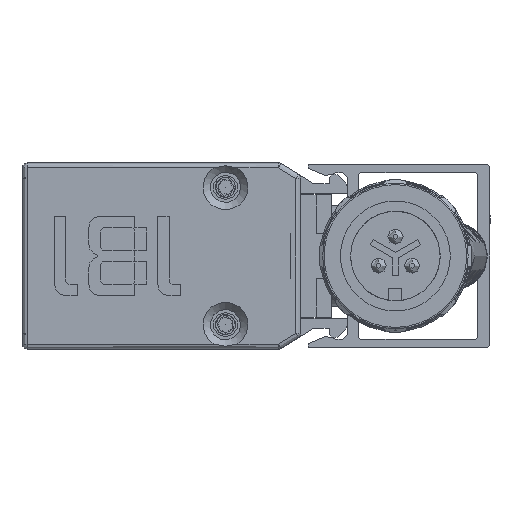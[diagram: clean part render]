
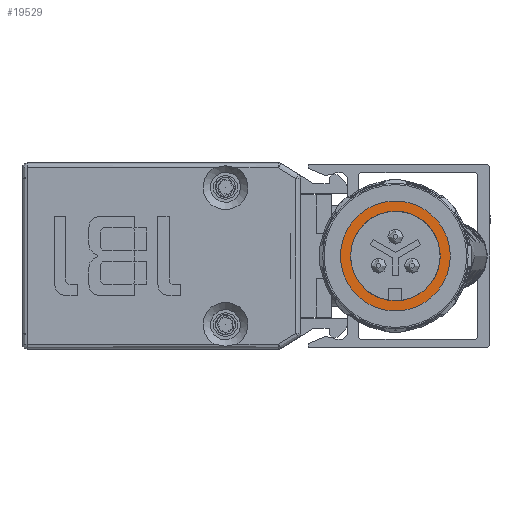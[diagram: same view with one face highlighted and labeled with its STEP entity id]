
A CAD part, left-side view. The second image highlights one B-rep face of the part: STEP entity #19529.
In plain terms, the highlighted planar face has unit normal (-1, 0, 0).
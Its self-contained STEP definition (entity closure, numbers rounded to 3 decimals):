
#11 = FACE_OUTER_BOUND ( 'NONE', #2804, .T. ) ;
#1995 = DIRECTION ( 'NONE',  ( 1., 0., 0. ) ) ;
#2804 = EDGE_LOOP ( 'NONE', ( #18748 ) ) ;
#5244 = ORIENTED_EDGE ( 'NONE', *, *, #12208, .F. ) ;
#6298 = DIRECTION ( 'NONE',  ( -1., 0., 0. ) ) ;
#6461 = CIRCLE ( 'NONE', #47592, 5.4 ) ;
#7272 = AXIS2_PLACEMENT_3D ( 'NONE', #33591, #29200, #41560 ) ;
#7733 = DIRECTION ( 'NONE',  ( 0., 0., 1. ) ) ;
#7782 = CARTESIAN_POINT ( 'NONE',  ( -6.5, -5.4, 0. ) ) ;
#12208 = EDGE_CURVE ( 'NONE', #26714, #30644, #50293, .T. ) ;
#13620 = VERTEX_POINT ( 'NONE', #7782 ) ;
#17013 = FACE_BOUND ( 'NONE', #54354, .T. ) ;
#18748 = ORIENTED_EDGE ( 'NONE', *, *, #41758, .F. ) ;
#19529 = ADVANCED_FACE ( 'NONE', ( #17013, #11 ), #26345, .F. ) ;
#19816 = DIRECTION ( 'NONE',  ( 0., -1., 0. ) ) ;
#26345 = PLANE ( 'NONE',  #54806 ) ;
#26714 = VERTEX_POINT ( 'NONE', #31541 ) ;
#29200 = DIRECTION ( 'NONE',  ( -1., 0., 0. ) ) ;
#30644 = VERTEX_POINT ( 'NONE', #40416 ) ;
#30735 = DIRECTION ( 'NONE',  ( 1., 0., 0. ) ) ;
#31541 = CARTESIAN_POINT ( 'NONE',  ( -6.5, 0., -4.4 ) ) ;
#33591 = CARTESIAN_POINT ( 'NONE',  ( -6.5, 0., 0. ) ) ;
#36222 = EDGE_CURVE ( 'NONE', #30644, #26714, #55728, .T. ) ;
#39216 = DIRECTION ( 'NONE',  ( 0., 1., 0. ) ) ;
#40416 = CARTESIAN_POINT ( 'NONE',  ( -6.5, 0., 4.4 ) ) ;
#41560 = DIRECTION ( 'NONE',  ( 0., 0., -1. ) ) ;
#41758 = EDGE_CURVE ( 'NONE', #13620, #13620, #6461, .T. ) ;
#42656 = ORIENTED_EDGE ( 'NONE', *, *, #36222, .F. ) ;
#44492 = CARTESIAN_POINT ( 'NONE',  ( -6.5, 0., 0. ) ) ;
#47285 = AXIS2_PLACEMENT_3D ( 'NONE', #55243, #6298, #7733 ) ;
#47336 = CARTESIAN_POINT ( 'NONE',  ( -6.5, 0., 0. ) ) ;
#47592 = AXIS2_PLACEMENT_3D ( 'NONE', #47336, #1995, #19816 ) ;
#50293 = CIRCLE ( 'NONE', #7272, 4.4 ) ;
#54354 = EDGE_LOOP ( 'NONE', ( #5244, #42656 ) ) ;
#54806 = AXIS2_PLACEMENT_3D ( 'NONE', #44492, #30735, #39216 ) ;
#55243 = CARTESIAN_POINT ( 'NONE',  ( -6.5, 0., 0. ) ) ;
#55728 = CIRCLE ( 'NONE', #47285, 4.4 ) ;
